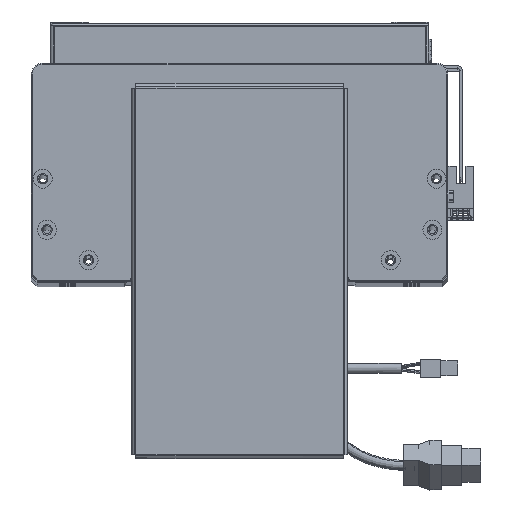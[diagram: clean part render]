
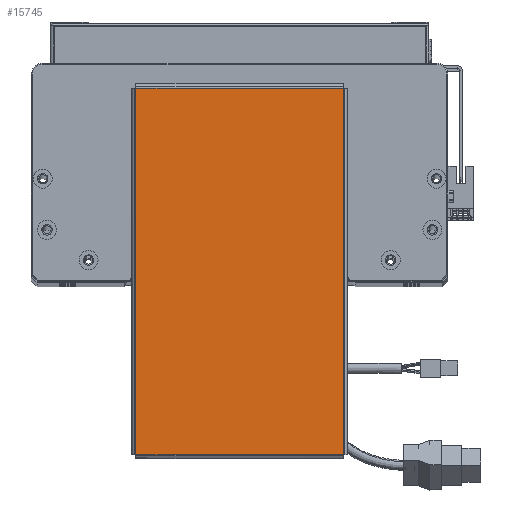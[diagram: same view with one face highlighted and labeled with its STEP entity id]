
A CAD part, top view. The second image highlights one B-rep face of the part: STEP entity #15745.
In plain terms, the highlighted planar face has unit normal (0, 0, 1).
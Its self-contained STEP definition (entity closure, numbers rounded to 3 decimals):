
#1892 = CARTESIAN_POINT ( 'NONE',  ( -96.763, 54.793, 0. ) ) ;
#3600 = VECTOR ( 'NONE', #51841, 1000. ) ;
#4251 = CARTESIAN_POINT ( 'NONE',  ( 96.763, -54.763, 0. ) ) ;
#4884 = CARTESIAN_POINT ( 'NONE',  ( 96.763, -54.793, 0. ) ) ;
#5455 = LINE ( 'NONE', #60654, #40355 ) ;
#9246 = EDGE_CURVE ( 'NONE', #39156, #57009, #28491, .T. ) ;
#10264 = PLANE ( 'NONE',  #40578 ) ;
#10609 = VECTOR ( 'NONE', #52923, 1000. ) ;
#12098 = CARTESIAN_POINT ( 'NONE',  ( 0., 0., 0. ) ) ;
#15329 = FACE_OUTER_BOUND ( 'NONE', #53793, .T. ) ;
#15745 = ADVANCED_FACE ( 'NONE', ( #15329 ), #10264, .T. ) ;
#16633 = VERTEX_POINT ( 'NONE', #49150 ) ;
#16793 = ORIENTED_EDGE ( 'NONE', *, *, #59063, .T. ) ;
#17017 = ORIENTED_EDGE ( 'NONE', *, *, #50358, .T. ) ;
#21146 = DIRECTION ( 'NONE',  ( 1., 0., 0. ) ) ;
#22585 = ORIENTED_EDGE ( 'NONE', *, *, #26933, .T. ) ;
#24470 = VERTEX_POINT ( 'NONE', #4251 ) ;
#26933 = EDGE_CURVE ( 'NONE', #16633, #39156, #5455, .T. ) ;
#28491 = LINE ( 'NONE', #1892, #10609 ) ;
#31742 = CARTESIAN_POINT ( 'NONE',  ( -96.763, -54.763, 0. ) ) ;
#32883 = LINE ( 'NONE', #4884, #3600 ) ;
#34584 = DIRECTION ( 'NONE',  ( -1., 0., 0. ) ) ;
#35239 = CARTESIAN_POINT ( 'NONE',  ( -96.763, 54.763, 0. ) ) ;
#39156 = VERTEX_POINT ( 'NONE', #35239 ) ;
#40355 = VECTOR ( 'NONE', #34584, 1000. ) ;
#40578 = AXIS2_PLACEMENT_3D ( 'NONE', #12098, #51957, #21146 ) ;
#47411 = LINE ( 'NONE', #49859, #54734 ) ;
#49150 = CARTESIAN_POINT ( 'NONE',  ( 96.763, 54.763, 0. ) ) ;
#49859 = CARTESIAN_POINT ( 'NONE',  ( -96.793, -54.763, 0. ) ) ;
#50358 = EDGE_CURVE ( 'NONE', #57009, #24470, #47411, .T. ) ;
#51841 = DIRECTION ( 'NONE',  ( 0., 1., 0. ) ) ;
#51957 = DIRECTION ( 'NONE',  ( 0., 0., 1. ) ) ;
#52923 = DIRECTION ( 'NONE',  ( 0., -1., 0. ) ) ;
#53793 = EDGE_LOOP ( 'NONE', ( #17017, #16793, #22585, #60067 ) ) ;
#54734 = VECTOR ( 'NONE', #54854, 1000. ) ;
#54854 = DIRECTION ( 'NONE',  ( 1., 0., 0. ) ) ;
#57009 = VERTEX_POINT ( 'NONE', #31742 ) ;
#59063 = EDGE_CURVE ( 'NONE', #24470, #16633, #32883, .T. ) ;
#60067 = ORIENTED_EDGE ( 'NONE', *, *, #9246, .T. ) ;
#60654 = CARTESIAN_POINT ( 'NONE',  ( 96.793, 54.763, 0. ) ) ;
